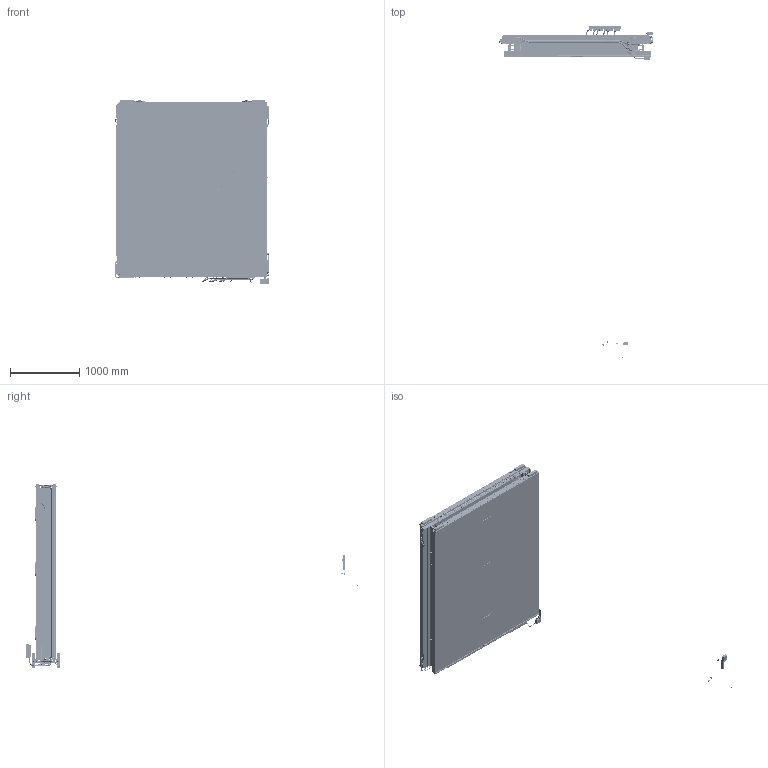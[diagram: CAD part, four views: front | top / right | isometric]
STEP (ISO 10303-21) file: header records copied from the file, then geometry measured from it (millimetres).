
FILE_DESCRIPTION(/* description */ (''),/* implementation_level */ '2;1');
FILE_NAME(/* name */ 'A_030930_mb1_-2_1_4_phi_L_carters.stp',/* time_stamp */ '2017-05-18T17:21:57+02:00',/* author */ (''),/* organization */ (''),/* preprocessor_version */ 'ST-DEVELOPER v16',/* originating_system */ 'SIEMENS PLM Software NX 10.0',/* authorisation */ '');
FILE_SCHEMA (('AUTOMOTIVE_DESIGN { 1 0 10303 214 3 1 1 1 }'));
Products named in the file (212): hv_grnd_pin; busbar_pin; piastra_0011_spess; piastra_0011; rivetto_4; spina_5x26; elicoil; rivetto_svas_m10; molla_new2; power_supply_model; connett_fe_littl; tappo1_4; connett_test_p; mb45_phi_lam_vars; mb3c_phi_lam_vars; mb3_phi_lam_vars; mb2c_th_lam_vars; mb2c_phi_lam_vars; mb2_th_lam_vars; mb2_phi_lam_vars; mb3c_th_lam_vars; mb45c_phi_lam_vars; mb3_th_lam_vars; mb48_phi_lam_vars; mb1_phi_lam_vars; mb1_th_lam_vars; mb49_phi_lam_vars; mb1c_phi_lam_vars; mb1c_th_lam_vars; cover_new2; axis; tappo1_8; colon_front_000308; block_sh12_000301; mb1_q1_wire_2d_n2; crocicchio; txt_2_lung; cms_mb_05_010; fork; w1s_hc_skin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
Assembly tree (669 placements, depth 9):
  030930_mb1_-2_1_4_phi_L_carters
    mb1_-2_1_4_ass
      mb1_-2_1_4_ch
        mb1_phi_superlay  x2
          mb1_q1_ass_lamiere
            mb1_q1_b1
            mb1_q1_b1_up
            cms_mb_02_018  x4
          mb1_q1_ass_beams1_8
            mb1_q1_wire_2d_ass_n2
              crocicchio
              mb1_q1_wire_2d_n2  x196
          mb1_q1_ass_lateral
            as_angle  x2
              block_sh12_000301
              colon_front_000308
            cms_mb_02_014
          vite_m4
          mb1_q1_cover_hv_ass
            cms_mb_02_026
            cms_mb_02_021
              tappo1_8  x2
              axis  x28
            as_hv_conn_cover  x2
              cover_new2
          vars
            mb1c_th_vars
              mb1c_th_lam_vars
            mb1c_phi_vars
              mb1c_phi_lam_vars
            mb49_phi_vars
              mb49_phi_lam_vars
            mb1_th_vars
              mb1_th_lam_vars
            mb1_phi_vars
              mb1_phi_lam_vars
            mb48_phi_vars
              mb48_phi_lam_vars
            mb3_th_vars
              mb3_th_lam_vars
            mb45c_phi_vars
              mb45c_phi_lam_vars
            mb3c_th_vars
              mb3c_th_lam_vars
            mb2_phi_vars
              mb2_phi_lam_vars
            mb2_th_vars
              mb2_th_lam_vars
            mb2c_phi_vars
              mb2c_phi_lam_vars
            mb2c_th_vars
              mb2c_th_lam_vars
            mb3_phi_vars
              mb3_phi_lam_vars
            mb3c_phi_vars
              mb3c_phi_lam_vars
            mb45_phi_vars
              mb45_phi_lam_vars
          2109_ass
            2109_cms_mb_02_041
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Bounding box: 2229.24 x 4793.96 x 2646.12 mm (x, y, z)
Volume: 1529388995.4 mm3; surface area: 161126796.3 mm2
Topology: 343 solids, 770 shells, 16430 faces, 55670 edges, 50736 vertices
Faces by surface type: plane 9727, cylinder 4973, cone 1226, torus 299, bspline 159, sphere 46
Full cylindrical faces by diameter (mm): 1 x191, 1.675 x12, 2.594 x54, 3 x72, 3.2 x12, 3.25 x6, 3.3 x36, 3.432 x437, 3.5 x54, 3.778 x7, 4 x35, 4.8 x33, 5 x59, 5.188 x40, 5.5 x276, 6 x38, 6.4 x34, 6.5 x19, 7 x3, 7.188 x4, 7.5 x72, 8 x63, 8.6 x6, 8.782 x28, 8.8 x30, 8.933 x24, 8.985 x24, 9.061 x1, 9.391 x48, 9.5 x69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
Entity records: 361396 total; most frequent: CARTESIAN_POINT 101819, DIRECTION 41763, ORIENTED_EDGE 40861, EDGE_CURVE 20941, AXIS2_PLACEMENT_3D 14716, VERTEX_POINT 13370, LINE 12331, VECTOR 12331
